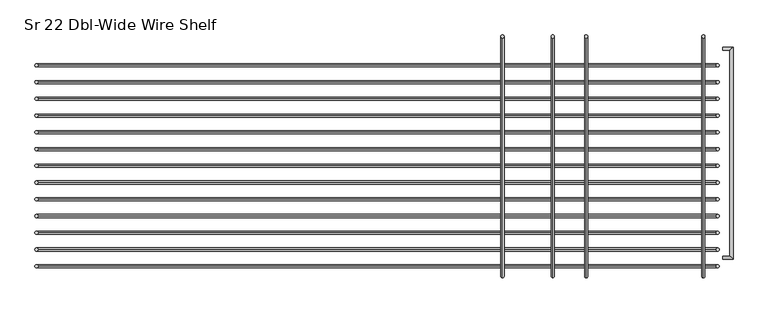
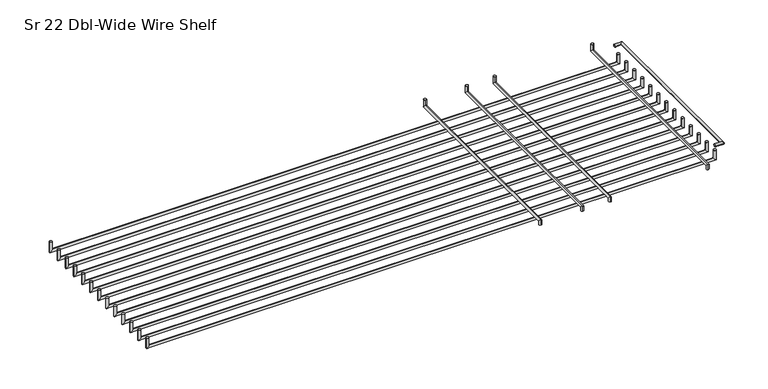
"""IFC4 building model written with IfcOpenShell, lengths in millimetres: furniture geometry, HermanMiller_Carts_CT521_CartShelf : Sr 22 Dbl-Wide Wire Shelf."""

from ifc_helpers import new_model, si_unit, frame, origin, place, context, project, spatial, circle_curve, ellipse_curve, source, transform, mapped, element, save
from ifc_brep_helpers import plane_surface, cylinder_surface, advanced_brep


def sr_22_dbl_wide_wire_shelf_2b35090b(model_context):
    return source(origin(), model_context, "Body", "AdvancedBrep", [
        advanced_brep(
        [(743.3373883, -178.26736, 1861.3501), (743.3373883, -183.04256, 1861.3501), (743.3373883, 133.81736, 1861.3501), (743.3373883, 138.59256, 1861.3501), (759.2123883, -183.04256, 1861.3501), (754.4371883, -178.26736, 1861.3501), (759.2123883, 138.59256, 1861.3501), (754.4371883, 133.81736, 1861.3501)],
        [
            (0, 1, circle_curve(frame((743.3373883, -180.65496, 1861.3501), z_axis=(-1.0, 0.0, 0.0), x_axis=(0.0, -1.0, 0.0)), 2.3876)),
            (1, 0, circle_curve(frame((743.3373883, -180.65496, 1861.3501), z_axis=(-1.0, 0.0, 0.0), x_axis=(0.0, -1.0, 0.0)), 2.3876)),
            (2, 3, circle_curve(frame((743.3373883, 136.20496, 1861.3501), z_axis=(-1.0, 0.0, 0.0), x_axis=(0.0, 1.0, 0.0)), 2.3876)),
            (3, 2, circle_curve(frame((743.3373883, 136.20496, 1861.3501), z_axis=(-1.0, 0.0, 0.0), x_axis=(0.0, 1.0, 0.0)), 2.3876)),
            (1, 4),
            (4, 5, ellipse_curve(frame((756.8247883, -180.65496, 1861.3501), z_axis=(-0.7071067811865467, -0.7071067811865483, 0.0), x_axis=(-0.7071067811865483, 0.7071067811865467, 0.0)), 3.3765763, 2.3876)),
            (5, 0),
            (5, 4, ellipse_curve(frame((756.8247883, -180.65496, 1861.3501), z_axis=(-0.7071067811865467, -0.7071067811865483, 0.0), x_axis=(-0.7071067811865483, 0.7071067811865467, 0.0)), 3.3765763, 2.3876)),
            (4, 6),
            (6, 7, ellipse_curve(frame((756.8247883, 136.20496, 1861.3501), z_axis=(0.7071067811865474, -0.7071067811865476, 0.0), x_axis=(-0.7071067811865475, -0.7071067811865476, 0.0)), 3.3765763, 2.3876)),
            (7, 5),
            (7, 6, ellipse_curve(frame((756.8247883, 136.20496, 1861.3501), z_axis=(0.7071067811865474, -0.7071067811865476, 0.0), x_axis=(-0.7071067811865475, -0.7071067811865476, 0.0)), 3.3765763, 2.3876)),
            (6, 3),
            (2, 7),
        ],
        [
            plane_surface(frame((743.3373883, -180.65496, 1861.3501), z_axis=(-1.0, 0.0, 0.0), x_axis=(0.0, 0.0, 1.0))),
            plane_surface(frame((743.3373883, 136.20496, 1861.3501), z_axis=(-1.0, 0.0, 0.0), x_axis=(0.0, 0.0, 1.0))),
            cylinder_surface(frame((743.3373883, -180.65496, 1861.3501), z_axis=(-1.0, 0.0, 0.0), x_axis=(0.0, -1.0, 0.0)), 2.3876),
            cylinder_surface(frame((756.8247883, -180.65496, 1861.3501), z_axis=(0.0, -1.0, 0.0), x_axis=(1.0, 0.0, 0.0)), 2.3876),
            cylinder_surface(frame((756.8247883, 136.20496, 1861.3501), z_axis=(1.0, 0.0, 0.0), x_axis=(0.0, 1.0, 0.0)), 2.3876),
        ],
        [
            (0, [[1, 2]]),
            (1, [[3, 4]]),
            (2, [[5, 6, 7, -2]]),
            (2, [[-7, 8, -5, -1]]),
            (3, [[9, 10, 11, -6]]),
            (3, [[-11, 12, -9, -8]]),
            (4, [[13, -3, 14, -10]]),
            (4, [[-14, -4, -13, -12]]),
        ],
    ),
        advanced_brep(
        [(733.4732983, 34.925, 1863.7377), (738.2357983, 34.925, 1863.7377), (733.4732983, 34.925, 1848.4596), (738.2357983, 34.925, 1843.6971), (-295.1886017, 34.925, 1848.4596), (-299.9511017, 34.925, 1843.6971), (-295.1886017, 34.925, 1863.7377), (-299.9511017, 34.925, 1863.7377)],
        [
            (0, 1, circle_curve(frame((735.8545483, 34.925, 1863.7377), z_axis=(0.0, 0.0, 1.0), x_axis=(1.0, 0.0, 0.0)), 2.38125)),
            (1, 0, circle_curve(frame((735.8545483, 34.925, 1863.7377), z_axis=(0.0, 0.0, 1.0), x_axis=(1.0, 0.0, 0.0)), 2.38125)),
            (0, 2),
            (2, 3, ellipse_curve(frame((735.8545483, 34.925, 1846.07835), z_axis=(0.7071067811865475, 0.0, 0.7071067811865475), x_axis=(-0.7071067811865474, 0.0, 0.7071067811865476)), 3.367596, 2.38125)),
            (3, 1),
            (3, 2, ellipse_curve(frame((735.8545483, 34.925, 1846.07835), z_axis=(0.7071067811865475, 0.0, 0.7071067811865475), x_axis=(-0.7071067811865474, 0.0, 0.7071067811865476)), 3.367596, 2.38125)),
            (2, 4),
            (4, 5, ellipse_curve(frame((-297.5698517, 34.925, 1846.07835), z_axis=(0.7071067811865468, 0.0, -0.7071067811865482), x_axis=(0.7071067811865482, 0.0, 0.7071067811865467)), 3.367596, 2.38125)),
            (5, 3),
            (5, 4, ellipse_curve(frame((-297.5698517, 34.925, 1846.07835), z_axis=(0.7071067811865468, 0.0, -0.7071067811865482), x_axis=(0.7071067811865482, 0.0, 0.7071067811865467)), 3.367596, 2.38125)),
            (6, 7, circle_curve(frame((-297.5698517, 34.925, 1863.7377), z_axis=(0.0, 0.0, 1.0), x_axis=(-1.0, 0.0, 0.0)), 2.38125)),
            (7, 6, circle_curve(frame((-297.5698517, 34.925, 1863.7377), z_axis=(0.0, 0.0, 1.0), x_axis=(-1.0, 0.0, 0.0)), 2.38125)),
            (4, 6),
            (7, 5),
        ],
        [
            plane_surface(frame((735.8545483, 34.925, 1863.7377), z_axis=(0.0, 0.0, 1.0), x_axis=(0.0, -1.0, 0.0))),
            cylinder_surface(frame((735.8545483, 34.925, 1863.7377), z_axis=(0.0, 0.0, 1.0), x_axis=(1.0, 0.0, 0.0)), 2.38125),
            cylinder_surface(frame((735.8545483, 34.925, 1846.07835), z_axis=(1.0, 0.0, 0.0), x_axis=(0.0, 0.0, -1.0)), 2.38125),
            plane_surface(frame((-297.5698517, 34.925, 1863.7377), z_axis=(0.0, 0.0, 1.0), x_axis=(0.0, -1.0, 0.0))),
            cylinder_surface(frame((-297.5698517, 34.925, 1846.07835), z_axis=(0.0, 0.0, -1.0), x_axis=(-1.0, 0.0, 0.0)), 2.38125),
        ],
        [
            (0, [[1, 2]]),
            (1, [[-1, 3, 4, 5]]),
            (1, [[-2, -5, 6, -3]]),
            (2, [[-4, 7, 8, 9]]),
            (2, [[-6, -9, 10, -7]]),
            (3, [[11, 12]]),
            (4, [[-8, 13, -12, 14]]),
            (4, [[-10, -14, -11, -13]]),
        ],
    ),
        advanced_brep(
        [(733.4732983, -15.875, 1863.7377), (738.2357983, -15.875, 1863.7377), (733.4732983, -15.875, 1848.4596), (738.2357983, -15.875, 1843.6971), (-295.1886017, -15.875, 1848.4596), (-299.9511017, -15.875, 1843.6971), (-295.1886017, -15.875, 1863.7377), (-299.9511017, -15.875, 1863.7377)],
        [
            (0, 1, circle_curve(frame((735.8545483, -15.875, 1863.7377), z_axis=(0.0, 0.0, 1.0), x_axis=(1.0, 0.0, 0.0)), 2.38125)),
            (1, 0, circle_curve(frame((735.8545483, -15.875, 1863.7377), z_axis=(0.0, 0.0, 1.0), x_axis=(1.0, 0.0, 0.0)), 2.38125)),
            (0, 2),
            (2, 3, ellipse_curve(frame((735.8545483, -15.875, 1846.07835), z_axis=(0.7071067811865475, 0.0, 0.7071067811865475), x_axis=(-0.7071067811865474, 0.0, 0.7071067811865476)), 3.367596, 2.38125)),
            (3, 1),
            (3, 2, ellipse_curve(frame((735.8545483, -15.875, 1846.07835), z_axis=(0.7071067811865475, 0.0, 0.7071067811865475), x_axis=(-0.7071067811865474, 0.0, 0.7071067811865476)), 3.367596, 2.38125)),
            (2, 4),
            (4, 5, ellipse_curve(frame((-297.5698517, -15.875, 1846.07835), z_axis=(0.7071067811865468, 0.0, -0.7071067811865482), x_axis=(0.7071067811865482, 0.0, 0.7071067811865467)), 3.367596, 2.38125)),
            (5, 3),
            (5, 4, ellipse_curve(frame((-297.5698517, -15.875, 1846.07835), z_axis=(0.7071067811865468, 0.0, -0.7071067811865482), x_axis=(0.7071067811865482, 0.0, 0.7071067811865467)), 3.367596, 2.38125)),
            (6, 7, circle_curve(frame((-297.5698517, -15.875, 1863.7377), z_axis=(0.0, 0.0, 1.0), x_axis=(-1.0, 0.0, 0.0)), 2.38125)),
            (7, 6, circle_curve(frame((-297.5698517, -15.875, 1863.7377), z_axis=(0.0, 0.0, 1.0), x_axis=(-1.0, 0.0, 0.0)), 2.38125)),
            (4, 6),
            (7, 5),
        ],
        [
            plane_surface(frame((735.8545483, -15.875, 1863.7377), z_axis=(0.0, 0.0, 1.0), x_axis=(0.0, -1.0, 0.0))),
            cylinder_surface(frame((735.8545483, -15.875, 1863.7377), z_axis=(0.0, 0.0, 1.0), x_axis=(1.0, 0.0, 0.0)), 2.38125),
            cylinder_surface(frame((735.8545483, -15.875, 1846.07835), z_axis=(1.0, 0.0, 0.0), x_axis=(0.0, 0.0, -1.0)), 2.38125),
            plane_surface(frame((-297.5698517, -15.875, 1863.7377), z_axis=(0.0, 0.0, 1.0), x_axis=(0.0, -1.0, 0.0))),
            cylinder_surface(frame((-297.5698517, -15.875, 1846.07835), z_axis=(0.0, 0.0, -1.0), x_axis=(-1.0, 0.0, 0.0)), 2.38125),
        ],
        [
            (0, [[1, 2]]),
            (1, [[-1, 3, 4, 5]]),
            (1, [[-2, -5, 6, -3]]),
            (2, [[-4, 7, 8, 9]]),
            (2, [[-6, -9, 10, -7]]),
            (3, [[11, 12]]),
            (4, [[-8, 13, -12, 14]]),
            (4, [[-10, -14, -11, -13]]),
        ],
    ),
        advanced_brep(
        [(733.4732983, -66.675, 1863.7377), (738.2357983, -66.675, 1863.7377), (733.4732983, -66.675, 1848.4596), (738.2357983, -66.675, 1843.6971), (-295.1886017, -66.675, 1848.4596), (-299.9511017, -66.675, 1843.6971), (-295.1886017, -66.675, 1863.7377), (-299.9511017, -66.675, 1863.7377)],
        [
            (0, 1, circle_curve(frame((735.8545483, -66.675, 1863.7377), z_axis=(0.0, 0.0, 1.0), x_axis=(1.0, 0.0, 0.0)), 2.38125)),
            (1, 0, circle_curve(frame((735.8545483, -66.675, 1863.7377), z_axis=(0.0, 0.0, 1.0), x_axis=(1.0, 0.0, 0.0)), 2.38125)),
            (0, 2),
            (2, 3, ellipse_curve(frame((735.8545483, -66.675, 1846.07835), z_axis=(0.7071067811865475, 0.0, 0.7071067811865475), x_axis=(-0.7071067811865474, 0.0, 0.7071067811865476)), 3.367596, 2.38125)),
            (3, 1),
            (3, 2, ellipse_curve(frame((735.8545483, -66.675, 1846.07835), z_axis=(0.7071067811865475, 0.0, 0.7071067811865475), x_axis=(-0.7071067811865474, 0.0, 0.7071067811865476)), 3.367596, 2.38125)),
            (2, 4),
            (4, 5, ellipse_curve(frame((-297.5698517, -66.675, 1846.07835), z_axis=(0.7071067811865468, 0.0, -0.7071067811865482), x_axis=(0.7071067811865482, 0.0, 0.7071067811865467)), 3.367596, 2.38125)),
            (5, 3),
            (5, 4, ellipse_curve(frame((-297.5698517, -66.675, 1846.07835), z_axis=(0.7071067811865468, 0.0, -0.7071067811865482), x_axis=(0.7071067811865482, 0.0, 0.7071067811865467)), 3.367596, 2.38125)),
            (6, 7, circle_curve(frame((-297.5698517, -66.675, 1863.7377), z_axis=(0.0, 0.0, 1.0), x_axis=(-1.0, 0.0, 0.0)), 2.38125)),
            (7, 6, circle_curve(frame((-297.5698517, -66.675, 1863.7377), z_axis=(0.0, 0.0, 1.0), x_axis=(-1.0, 0.0, 0.0)), 2.38125)),
            (4, 6),
            (7, 5),
        ],
        [
            plane_surface(frame((735.8545483, -66.675, 1863.7377), z_axis=(0.0, 0.0, 1.0), x_axis=(0.0, -1.0, 0.0))),
            cylinder_surface(frame((735.8545483, -66.675, 1863.7377), z_axis=(0.0, 0.0, 1.0), x_axis=(1.0, 0.0, 0.0)), 2.38125),
            cylinder_surface(frame((735.8545483, -66.675, 1846.07835), z_axis=(1.0, 0.0, 0.0), x_axis=(0.0, 0.0, -1.0)), 2.38125),
            plane_surface(frame((-297.5698517, -66.675, 1863.7377), z_axis=(0.0, 0.0, 1.0), x_axis=(0.0, -1.0, 0.0))),
            cylinder_surface(frame((-297.5698517, -66.675, 1846.07835), z_axis=(0.0, 0.0, -1.0), x_axis=(-1.0, 0.0, 0.0)), 2.38125),
        ],
        [
            (0, [[1, 2]]),
            (1, [[-1, 3, 4, 5]]),
            (1, [[-2, -5, 6, -3]]),
            (2, [[-4, 7, 8, 9]]),
            (2, [[-6, -9, 10, -7]]),
            (3, [[11, 12]]),
            (4, [[-8, 13, -12, 14]]),
            (4, [[-10, -14, -11, -13]]),
        ],
    ),
        advanced_brep(
        [(733.4732983, -117.475, 1863.7377), (738.2357983, -117.475, 1863.7377), (733.4732983, -117.475, 1848.4596), (738.2357983, -117.475, 1843.6971), (-295.1886017, -117.475, 1848.4596), (-299.9511017, -117.475, 1843.6971), (-295.1886017, -117.475, 1863.7377), (-299.9511017, -117.475, 1863.7377)],
        [
            (0, 1, circle_curve(frame((735.8545483, -117.475, 1863.7377), z_axis=(0.0, 0.0, 1.0), x_axis=(1.0, 0.0, 0.0)), 2.38125)),
            (1, 0, circle_curve(frame((735.8545483, -117.475, 1863.7377), z_axis=(0.0, 0.0, 1.0), x_axis=(1.0, 0.0, 0.0)), 2.38125)),
            (0, 2),
            (2, 3, ellipse_curve(frame((735.8545483, -117.475, 1846.07835), z_axis=(0.7071067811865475, 0.0, 0.7071067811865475), x_axis=(-0.7071067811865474, 0.0, 0.7071067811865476)), 3.367596, 2.38125)),
            (3, 1),
            (3, 2, ellipse_curve(frame((735.8545483, -117.475, 1846.07835), z_axis=(0.7071067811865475, 0.0, 0.7071067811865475), x_axis=(-0.7071067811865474, 0.0, 0.7071067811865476)), 3.367596, 2.38125)),
            (2, 4),
            (4, 5, ellipse_curve(frame((-297.5698517, -117.475, 1846.07835), z_axis=(0.7071067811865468, 0.0, -0.7071067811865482), x_axis=(0.7071067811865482, 0.0, 0.7071067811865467)), 3.367596, 2.38125)),
            (5, 3),
            (5, 4, ellipse_curve(frame((-297.5698517, -117.475, 1846.07835), z_axis=(0.7071067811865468, 0.0, -0.7071067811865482), x_axis=(0.7071067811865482, 0.0, 0.7071067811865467)), 3.367596, 2.38125)),
            (6, 7, circle_curve(frame((-297.5698517, -117.475, 1863.7377), z_axis=(0.0, 0.0, 1.0), x_axis=(-1.0, 0.0, 0.0)), 2.38125)),
            (7, 6, circle_curve(frame((-297.5698517, -117.475, 1863.7377), z_axis=(0.0, 0.0, 1.0), x_axis=(-1.0, 0.0, 0.0)), 2.38125)),
            (4, 6),
            (7, 5),
        ],
        [
            plane_surface(frame((735.8545483, -117.475, 1863.7377), z_axis=(0.0, 0.0, 1.0), x_axis=(0.0, -1.0, 0.0))),
            cylinder_surface(frame((735.8545483, -117.475, 1863.7377), z_axis=(0.0, 0.0, 1.0), x_axis=(1.0, 0.0, 0.0)), 2.38125),
            cylinder_surface(frame((735.8545483, -117.475, 1846.07835), z_axis=(1.0, 0.0, 0.0), x_axis=(0.0, 0.0, -1.0)), 2.38125),
            plane_surface(frame((-297.5698517, -117.475, 1863.7377), z_axis=(0.0, 0.0, 1.0), x_axis=(0.0, -1.0, 0.0))),
            cylinder_surface(frame((-297.5698517, -117.475, 1846.07835), z_axis=(0.0, 0.0, -1.0), x_axis=(-1.0, 0.0, 0.0)), 2.38125),
        ],
        [
            (0, [[1, 2]]),
            (1, [[-1, 3, 4, 5]]),
            (1, [[-2, -5, 6, -3]]),
            (2, [[-4, 7, 8, 9]]),
            (2, [[-6, -9, 10, -7]]),
            (3, [[11, 12]]),
            (4, [[-8, 13, -12, 14]]),
            (4, [[-10, -14, -11, -13]]),
        ],
    ),
        advanced_brep(
        [(733.4732983, -168.275, 1863.7377), (738.2357983, -168.275, 1863.7377), (733.4732983, -168.275, 1848.4596), (738.2357983, -168.275, 1843.6971), (-295.1886017, -168.275, 1848.4596), (-299.9511017, -168.275, 1843.6971), (-295.1886017, -168.275, 1863.7377), (-299.9511017, -168.275, 1863.7377)],
        [
            (0, 1, circle_curve(frame((735.8545483, -168.275, 1863.7377), z_axis=(0.0, 0.0, 1.0), x_axis=(1.0, 0.0, 0.0)), 2.38125)),
            (1, 0, circle_curve(frame((735.8545483, -168.275, 1863.7377), z_axis=(0.0, 0.0, 1.0), x_axis=(1.0, 0.0, 0.0)), 2.38125)),
            (0, 2),
            (2, 3, ellipse_curve(frame((735.8545483, -168.275, 1846.07835), z_axis=(0.7071067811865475, 0.0, 0.7071067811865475), x_axis=(-0.7071067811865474, 0.0, 0.7071067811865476)), 3.367596, 2.38125)),
            (3, 1),
            (3, 2, ellipse_curve(frame((735.8545483, -168.275, 1846.07835), z_axis=(0.7071067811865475, 0.0, 0.7071067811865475), x_axis=(-0.7071067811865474, 0.0, 0.7071067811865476)), 3.367596, 2.38125)),
            (2, 4),
            (4, 5, ellipse_curve(frame((-297.5698517, -168.275, 1846.07835), z_axis=(0.7071067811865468, 0.0, -0.7071067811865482), x_axis=(0.7071067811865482, 0.0, 0.7071067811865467)), 3.367596, 2.38125)),
            (5, 3),
            (5, 4, ellipse_curve(frame((-297.5698517, -168.275, 1846.07835), z_axis=(0.7071067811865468, 0.0, -0.7071067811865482), x_axis=(0.7071067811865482, 0.0, 0.7071067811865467)), 3.367596, 2.38125)),
            (6, 7, circle_curve(frame((-297.5698517, -168.275, 1863.7377), z_axis=(0.0, 0.0, 1.0), x_axis=(-1.0, 0.0, 0.0)), 2.38125)),
            (7, 6, circle_curve(frame((-297.5698517, -168.275, 1863.7377), z_axis=(0.0, 0.0, 1.0), x_axis=(-1.0, 0.0, 0.0)), 2.38125)),
            (4, 6),
            (7, 5),
        ],
        [
            plane_surface(frame((735.8545483, -168.275, 1863.7377), z_axis=(0.0, 0.0, 1.0), x_axis=(0.0, -1.0, 0.0))),
            cylinder_surface(frame((735.8545483, -168.275, 1863.7377), z_axis=(0.0, 0.0, 1.0), x_axis=(1.0, 0.0, 0.0)), 2.38125),
            cylinder_surface(frame((735.8545483, -168.275, 1846.07835), z_axis=(1.0, 0.0, 0.0), x_axis=(0.0, 0.0, -1.0)), 2.38125),
            plane_surface(frame((-297.5698517, -168.275, 1863.7377), z_axis=(0.0, 0.0, 1.0), x_axis=(0.0, -1.0, 0.0))),
            cylinder_surface(frame((-297.5698517, -168.275, 1846.07835), z_axis=(0.0, 0.0, -1.0), x_axis=(-1.0, 0.0, 0.0)), 2.38125),
        ],
        [
            (0, [[1, 2]]),
            (1, [[-1, 3, 4, 5]]),
            (1, [[-2, -5, 6, -3]]),
            (2, [[-4, 7, 8, 9]]),
            (2, [[-6, -9, 10, -7]]),
            (3, [[11, 12]]),
            (4, [[-8, 13, -12, 14]]),
            (4, [[-10, -14, -11, -13]]),
        ],
    ),
        advanced_brep(
        [(733.4732983, -193.675, 1863.7377), (738.2357983, -193.675, 1863.7377), (733.4732983, -193.675, 1848.4596), (738.2357983, -193.675, 1843.6971), (-295.1886017, -193.675, 1848.4596), (-299.9511017, -193.675, 1843.6971), (-295.1886017, -193.675, 1863.7377), (-299.9511017, -193.675, 1863.7377)],
        [
            (0, 1, circle_curve(frame((735.8545483, -193.675, 1863.7377), z_axis=(0.0, 0.0, 1.0), x_axis=(1.0, 0.0, 0.0)), 2.38125)),
            (1, 0, circle_curve(frame((735.8545483, -193.675, 1863.7377), z_axis=(0.0, 0.0, 1.0), x_axis=(1.0, 0.0, 0.0)), 2.38125)),
            (0, 2),
            (2, 3, ellipse_curve(frame((735.8545483, -193.675, 1846.07835), z_axis=(0.7071067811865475, 0.0, 0.7071067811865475), x_axis=(-0.7071067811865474, 0.0, 0.7071067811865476)), 3.367596, 2.38125)),
            (3, 1),
            (3, 2, ellipse_curve(frame((735.8545483, -193.675, 1846.07835), z_axis=(0.7071067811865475, 0.0, 0.7071067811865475), x_axis=(-0.7071067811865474, 0.0, 0.7071067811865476)), 3.367596, 2.38125)),
            (2, 4),
            (4, 5, ellipse_curve(frame((-297.5698517, -193.675, 1846.07835), z_axis=(0.7071067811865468, 0.0, -0.7071067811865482), x_axis=(0.7071067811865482, 0.0, 0.7071067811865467)), 3.367596, 2.38125)),
            (5, 3),
            (5, 4, ellipse_curve(frame((-297.5698517, -193.675, 1846.07835), z_axis=(0.7071067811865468, 0.0, -0.7071067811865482), x_axis=(0.7071067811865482, 0.0, 0.7071067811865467)), 3.367596, 2.38125)),
            (6, 7, circle_curve(frame((-297.5698517, -193.675, 1863.7377), z_axis=(0.0, 0.0, 1.0), x_axis=(-1.0, 0.0, 0.0)), 2.38125)),
            (7, 6, circle_curve(frame((-297.5698517, -193.675, 1863.7377), z_axis=(0.0, 0.0, 1.0), x_axis=(-1.0, 0.0, 0.0)), 2.38125)),
            (4, 6),
            (7, 5),
        ],
        [
            plane_surface(frame((735.8545483, -193.675, 1863.7377), z_axis=(0.0, 0.0, 1.0), x_axis=(0.0, -1.0, 0.0))),
            cylinder_surface(frame((735.8545483, -193.675, 1863.7377), z_axis=(0.0, 0.0, 1.0), x_axis=(1.0, 0.0, 0.0)), 2.38125),
            cylinder_surface(frame((735.8545483, -193.675, 1846.07835), z_axis=(1.0, 0.0, 0.0), x_axis=(0.0, 0.0, -1.0)), 2.38125),
            plane_surface(frame((-297.5698517, -193.675, 1863.7377), z_axis=(0.0, 0.0, 1.0), x_axis=(0.0, -1.0, 0.0))),
            cylinder_surface(frame((-297.5698517, -193.675, 1846.07835), z_axis=(0.0, 0.0, -1.0), x_axis=(-1.0, 0.0, 0.0)), 2.38125),
        ],
        [
            (0, [[1, 2]]),
            (1, [[-1, 3, 4, 5]]),
            (1, [[-2, -5, 6, -3]]),
            (2, [[-4, 7, 8, 9]]),
            (2, [[-6, -9, 10, -7]]),
            (3, [[11, 12]]),
            (4, [[-8, 13, -12, 14]]),
            (4, [[-10, -14, -11, -13]]),
        ],
    ),
        advanced_brep(
        [(733.4732983, -142.875, 1863.7377), (738.2357983, -142.875, 1863.7377), (733.4732983, -142.875, 1848.4596), (738.2357983, -142.875, 1843.6971), (-295.1886017, -142.875, 1848.4596), (-299.9511017, -142.875, 1843.6971), (-295.1886017, -142.875, 1863.7377), (-299.9511017, -142.875, 1863.7377)],
        [
            (0, 1, circle_curve(frame((735.8545483, -142.875, 1863.7377), z_axis=(0.0, 0.0, 1.0), x_axis=(1.0, 0.0, 0.0)), 2.38125)),
            (1, 0, circle_curve(frame((735.8545483, -142.875, 1863.7377), z_axis=(0.0, 0.0, 1.0), x_axis=(1.0, 0.0, 0.0)), 2.38125)),
            (0, 2),
            (2, 3, ellipse_curve(frame((735.8545483, -142.875, 1846.07835), z_axis=(0.7071067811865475, 0.0, 0.7071067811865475), x_axis=(-0.7071067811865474, 0.0, 0.7071067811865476)), 3.367596, 2.38125)),
            (3, 1),
            (3, 2, ellipse_curve(frame((735.8545483, -142.875, 1846.07835), z_axis=(0.7071067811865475, 0.0, 0.7071067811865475), x_axis=(-0.7071067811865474, 0.0, 0.7071067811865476)), 3.367596, 2.38125)),
            (2, 4),
            (4, 5, ellipse_curve(frame((-297.5698517, -142.875, 1846.07835), z_axis=(0.7071067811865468, 0.0, -0.7071067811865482), x_axis=(0.7071067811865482, 0.0, 0.7071067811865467)), 3.367596, 2.38125)),
            (5, 3),
            (5, 4, ellipse_curve(frame((-297.5698517, -142.875, 1846.07835), z_axis=(0.7071067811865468, 0.0, -0.7071067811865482), x_axis=(0.7071067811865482, 0.0, 0.7071067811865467)), 3.367596, 2.38125)),
            (6, 7, circle_curve(frame((-297.5698517, -142.875, 1863.7377), z_axis=(0.0, 0.0, 1.0), x_axis=(-1.0, 0.0, 0.0)), 2.38125)),
            (7, 6, circle_curve(frame((-297.5698517, -142.875, 1863.7377), z_axis=(0.0, 0.0, 1.0), x_axis=(-1.0, 0.0, 0.0)), 2.38125)),
            (4, 6),
            (7, 5),
        ],
        [
            plane_surface(frame((735.8545483, -142.875, 1863.7377), z_axis=(0.0, 0.0, 1.0), x_axis=(0.0, -1.0, 0.0))),
            cylinder_surface(frame((735.8545483, -142.875, 1863.7377), z_axis=(0.0, 0.0, 1.0), x_axis=(1.0, 0.0, 0.0)), 2.38125),
            cylinder_surface(frame((735.8545483, -142.875, 1846.07835), z_axis=(1.0, 0.0, 0.0), x_axis=(0.0, 0.0, -1.0)), 2.38125),
            plane_surface(frame((-297.5698517, -142.875, 1863.7377), z_axis=(0.0, 0.0, 1.0), x_axis=(0.0, -1.0, 0.0))),
            cylinder_surface(frame((-297.5698517, -142.875, 1846.07835), z_axis=(0.0, 0.0, -1.0), x_axis=(-1.0, 0.0, 0.0)), 2.38125),
        ],
        [
            (0, [[1, 2]]),
            (1, [[-1, 3, 4, 5]]),
            (1, [[-2, -5, 6, -3]]),
            (2, [[-4, 7, 8, 9]]),
            (2, [[-6, -9, 10, -7]]),
            (3, [[11, 12]]),
            (4, [[-8, 13, -12, 14]]),
            (4, [[-10, -14, -11, -13]]),
        ],
    ),
        advanced_brep(
        [(733.4732983, -92.075, 1863.7377), (738.2357983, -92.075, 1863.7377), (733.4732983, -92.075, 1848.4596), (738.2357983, -92.075, 1843.6971), (-295.1886017, -92.075, 1848.4596), (-299.9511017, -92.075, 1843.6971), (-295.1886017, -92.075, 1863.7377), (-299.9511017, -92.075, 1863.7377)],
        [
            (0, 1, circle_curve(frame((735.8545483, -92.075, 1863.7377), z_axis=(0.0, 0.0, 1.0), x_axis=(1.0, 0.0, 0.0)), 2.38125)),
            (1, 0, circle_curve(frame((735.8545483, -92.075, 1863.7377), z_axis=(0.0, 0.0, 1.0), x_axis=(1.0, 0.0, 0.0)), 2.38125)),
            (0, 2),
            (2, 3, ellipse_curve(frame((735.8545483, -92.075, 1846.07835), z_axis=(0.7071067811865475, 0.0, 0.7071067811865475), x_axis=(-0.7071067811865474, 0.0, 0.7071067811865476)), 3.367596, 2.38125)),
            (3, 1),
            (3, 2, ellipse_curve(frame((735.8545483, -92.075, 1846.07835), z_axis=(0.7071067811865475, 0.0, 0.7071067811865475), x_axis=(-0.7071067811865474, 0.0, 0.7071067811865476)), 3.367596, 2.38125)),
            (2, 4),
            (4, 5, ellipse_curve(frame((-297.5698517, -92.075, 1846.07835), z_axis=(0.7071067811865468, 0.0, -0.7071067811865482), x_axis=(0.7071067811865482, 0.0, 0.7071067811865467)), 3.367596, 2.38125)),
            (5, 3),
            (5, 4, ellipse_curve(frame((-297.5698517, -92.075, 1846.07835), z_axis=(0.7071067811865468, 0.0, -0.7071067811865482), x_axis=(0.7071067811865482, 0.0, 0.7071067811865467)), 3.367596, 2.38125)),
            (6, 7, circle_curve(frame((-297.5698517, -92.075, 1863.7377), z_axis=(0.0, 0.0, 1.0), x_axis=(-1.0, 0.0, 0.0)), 2.38125)),
            (7, 6, circle_curve(frame((-297.5698517, -92.075, 1863.7377), z_axis=(0.0, 0.0, 1.0), x_axis=(-1.0, 0.0, 0.0)), 2.38125)),
            (4, 6),
            (7, 5),
        ],
        [
            plane_surface(frame((735.8545483, -92.075, 1863.7377), z_axis=(0.0, 0.0, 1.0), x_axis=(0.0, -1.0, 0.0))),
            cylinder_surface(frame((735.8545483, -92.075, 1863.7377), z_axis=(0.0, 0.0, 1.0), x_axis=(1.0, 0.0, 0.0)), 2.38125),
            cylinder_surface(frame((735.8545483, -92.075, 1846.07835), z_axis=(1.0, 0.0, 0.0), x_axis=(0.0, 0.0, -1.0)), 2.38125),
            plane_surface(frame((-297.5698517, -92.075, 1863.7377), z_axis=(0.0, 0.0, 1.0), x_axis=(0.0, -1.0, 0.0))),
            cylinder_surface(frame((-297.5698517, -92.075, 1846.07835), z_axis=(0.0, 0.0, -1.0), x_axis=(-1.0, 0.0, 0.0)), 2.38125),
        ],
        [
            (0, [[1, 2]]),
            (1, [[-1, 3, 4, 5]]),
            (1, [[-2, -5, 6, -3]]),
            (2, [[-4, 7, 8, 9]]),
            (2, [[-6, -9, 10, -7]]),
            (3, [[11, 12]]),
            (4, [[-8, 13, -12, 14]]),
            (4, [[-10, -14, -11, -13]]),
        ],
    ),
        advanced_brep(
        [(733.4732983, -41.275, 1863.7377), (738.2357983, -41.275, 1863.7377), (733.4732983, -41.275, 1848.4596), (738.2357983, -41.275, 1843.6971), (-295.1886017, -41.275, 1848.4596), (-299.9511017, -41.275, 1843.6971), (-295.1886017, -41.275, 1863.7377), (-299.9511017, -41.275, 1863.7377)],
        [
            (0, 1, circle_curve(frame((735.8545483, -41.275, 1863.7377), z_axis=(0.0, 0.0, 1.0), x_axis=(1.0, 0.0, 0.0)), 2.38125)),
            (1, 0, circle_curve(frame((735.8545483, -41.275, 1863.7377), z_axis=(0.0, 0.0, 1.0), x_axis=(1.0, 0.0, 0.0)), 2.38125)),
            (0, 2),
            (2, 3, ellipse_curve(frame((735.8545483, -41.275, 1846.07835), z_axis=(0.7071067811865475, 0.0, 0.7071067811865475), x_axis=(-0.7071067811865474, 0.0, 0.7071067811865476)), 3.367596, 2.38125)),
            (3, 1),
            (3, 2, ellipse_curve(frame((735.8545483, -41.275, 1846.07835), z_axis=(0.7071067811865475, 0.0, 0.7071067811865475), x_axis=(-0.7071067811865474, 0.0, 0.7071067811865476)), 3.367596, 2.38125)),
            (2, 4),
            (4, 5, ellipse_curve(frame((-297.5698517, -41.275, 1846.07835), z_axis=(0.7071067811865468, 0.0, -0.7071067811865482), x_axis=(0.7071067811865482, 0.0, 0.7071067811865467)), 3.367596, 2.38125)),
            (5, 3),
            (5, 4, ellipse_curve(frame((-297.5698517, -41.275, 1846.07835), z_axis=(0.7071067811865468, 0.0, -0.7071067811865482), x_axis=(0.7071067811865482, 0.0, 0.7071067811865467)), 3.367596, 2.38125)),
            (6, 7, circle_curve(frame((-297.5698517, -41.275, 1863.7377), z_axis=(0.0, 0.0, 1.0), x_axis=(-1.0, 0.0, 0.0)), 2.38125)),
            (7, 6, circle_curve(frame((-297.5698517, -41.275, 1863.7377), z_axis=(0.0, 0.0, 1.0), x_axis=(-1.0, 0.0, 0.0)), 2.38125)),
            (4, 6),
            (7, 5),
        ],
        [
            plane_surface(frame((735.8545483, -41.275, 1863.7377), z_axis=(0.0, 0.0, 1.0), x_axis=(0.0, -1.0, 0.0))),
            cylinder_surface(frame((735.8545483, -41.275, 1863.7377), z_axis=(0.0, 0.0, 1.0), x_axis=(1.0, 0.0, 0.0)), 2.38125),
            cylinder_surface(frame((735.8545483, -41.275, 1846.07835), z_axis=(1.0, 0.0, 0.0), x_axis=(0.0, 0.0, -1.0)), 2.38125),
            plane_surface(frame((-297.5698517, -41.275, 1863.7377), z_axis=(0.0, 0.0, 1.0), x_axis=(0.0, -1.0, 0.0))),
            cylinder_surface(frame((-297.5698517, -41.275, 1846.07835), z_axis=(0.0, 0.0, -1.0), x_axis=(-1.0, 0.0, 0.0)), 2.38125),
        ],
        [
            (0, [[1, 2]]),
            (1, [[-1, 3, 4, 5]]),
            (1, [[-2, -5, 6, -3]]),
            (2, [[-4, 7, 8, 9]]),
            (2, [[-6, -9, 10, -7]]),
            (3, [[11, 12]]),
            (4, [[-8, 13, -12, 14]]),
            (4, [[-10, -14, -11, -13]]),
        ],
    ),
        advanced_brep(
        [(733.4732983, 9.525, 1863.7377), (738.2357983, 9.525, 1863.7377), (733.4732983, 9.525, 1848.4596), (738.2357983, 9.525, 1843.6971), (-295.1886017, 9.525, 1848.4596), (-299.9511017, 9.525, 1843.6971), (-295.1886017, 9.525, 1863.7377), (-299.9511017, 9.525, 1863.7377)],
        [
            (0, 1, circle_curve(frame((735.8545483, 9.525, 1863.7377), z_axis=(0.0, 0.0, 1.0), x_axis=(1.0, 0.0, 0.0)), 2.38125)),
            (1, 0, circle_curve(frame((735.8545483, 9.525, 1863.7377), z_axis=(0.0, 0.0, 1.0), x_axis=(1.0, 0.0, 0.0)), 2.38125)),
            (0, 2),
            (2, 3, ellipse_curve(frame((735.8545483, 9.525, 1846.07835), z_axis=(0.7071067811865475, 0.0, 0.7071067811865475), x_axis=(-0.7071067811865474, 0.0, 0.7071067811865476)), 3.367596, 2.38125)),
            (3, 1),
            (3, 2, ellipse_curve(frame((735.8545483, 9.525, 1846.07835), z_axis=(0.7071067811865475, 0.0, 0.7071067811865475), x_axis=(-0.7071067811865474, 0.0, 0.7071067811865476)), 3.367596, 2.38125)),
            (2, 4),
            (4, 5, ellipse_curve(frame((-297.5698517, 9.525, 1846.07835), z_axis=(0.7071067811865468, 0.0, -0.7071067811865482), x_axis=(0.7071067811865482, 0.0, 0.7071067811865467)), 3.367596, 2.38125)),
            (5, 3),
            (5, 4, ellipse_curve(frame((-297.5698517, 9.525, 1846.07835), z_axis=(0.7071067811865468, 0.0, -0.7071067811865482), x_axis=(0.7071067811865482, 0.0, 0.7071067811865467)), 3.367596, 2.38125)),
            (6, 7, circle_curve(frame((-297.5698517, 9.525, 1863.7377), z_axis=(0.0, 0.0, 1.0), x_axis=(-1.0, 0.0, 0.0)), 2.38125)),
            (7, 6, circle_curve(frame((-297.5698517, 9.525, 1863.7377), z_axis=(0.0, 0.0, 1.0), x_axis=(-1.0, 0.0, 0.0)), 2.38125)),
            (4, 6),
            (7, 5),
        ],
        [
            plane_surface(frame((735.8545483, 9.525, 1863.7377), z_axis=(0.0, 0.0, 1.0), x_axis=(0.0, -1.0, 0.0))),
            cylinder_surface(frame((735.8545483, 9.525, 1863.7377), z_axis=(0.0, 0.0, 1.0), x_axis=(1.0, 0.0, 0.0)), 2.38125),
            cylinder_surface(frame((735.8545483, 9.525, 1846.07835), z_axis=(1.0, 0.0, 0.0), x_axis=(0.0, 0.0, -1.0)), 2.38125),
            plane_surface(frame((-297.5698517, 9.525, 1863.7377), z_axis=(0.0, 0.0, 1.0), x_axis=(0.0, -1.0, 0.0))),
            cylinder_surface(frame((-297.5698517, 9.525, 1846.07835), z_axis=(0.0, 0.0, -1.0), x_axis=(-1.0, 0.0, 0.0)), 2.38125),
        ],
        [
            (0, [[1, 2]]),
            (1, [[-1, 3, 4, 5]]),
            (1, [[-2, -5, 6, -3]]),
            (2, [[-4, 7, 8, 9]]),
            (2, [[-6, -9, 10, -7]]),
            (3, [[11, 12]]),
            (4, [[-8, 13, -12, 14]]),
            (4, [[-10, -14, -11, -13]]),
        ],
    ),
        advanced_brep(
        [(733.4732983, 60.325, 1863.7377), (738.2357983, 60.325, 1863.7377), (733.4732983, 60.325, 1848.4596), (738.2357983, 60.325, 1843.6971), (-295.1886017, 60.325, 1848.4596), (-299.9511017, 60.325, 1843.6971), (-295.1886017, 60.325, 1863.7377), (-299.9511017, 60.325, 1863.7377)],
        [
            (0, 1, circle_curve(frame((735.8545483, 60.325, 1863.7377), z_axis=(0.0, 0.0, 1.0), x_axis=(1.0, 0.0, 0.0)), 2.38125)),
            (1, 0, circle_curve(frame((735.8545483, 60.325, 1863.7377), z_axis=(0.0, 0.0, 1.0), x_axis=(1.0, 0.0, 0.0)), 2.38125)),
            (0, 2),
            (2, 3, ellipse_curve(frame((735.8545483, 60.325, 1846.07835), z_axis=(0.7071067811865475, 0.0, 0.7071067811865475), x_axis=(-0.7071067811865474, 0.0, 0.7071067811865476)), 3.367596, 2.38125)),
            (3, 1),
            (3, 2, ellipse_curve(frame((735.8545483, 60.325, 1846.07835), z_axis=(0.7071067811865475, 0.0, 0.7071067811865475), x_axis=(-0.7071067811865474, 0.0, 0.7071067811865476)), 3.367596, 2.38125)),
            (2, 4),
            (4, 5, ellipse_curve(frame((-297.5698517, 60.325, 1846.07835), z_axis=(0.7071067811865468, 0.0, -0.7071067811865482), x_axis=(0.7071067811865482, 0.0, 0.7071067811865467)), 3.367596, 2.38125)),
            (5, 3),
            (5, 4, ellipse_curve(frame((-297.5698517, 60.325, 1846.07835), z_axis=(0.7071067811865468, 0.0, -0.7071067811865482), x_axis=(0.7071067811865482, 0.0, 0.7071067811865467)), 3.367596, 2.38125)),
            (6, 7, circle_curve(frame((-297.5698517, 60.325, 1863.7377), z_axis=(0.0, 0.0, 1.0), x_axis=(-1.0, 0.0, 0.0)), 2.38125)),
            (7, 6, circle_curve(frame((-297.5698517, 60.325, 1863.7377), z_axis=(0.0, 0.0, 1.0), x_axis=(-1.0, 0.0, 0.0)), 2.38125)),
            (4, 6),
            (7, 5),
        ],
        [
            plane_surface(frame((735.8545483, 60.325, 1863.7377), z_axis=(0.0, 0.0, 1.0), x_axis=(0.0, -1.0, 0.0))),
            cylinder_surface(frame((735.8545483, 60.325, 1863.7377), z_axis=(0.0, 0.0, 1.0), x_axis=(1.0, 0.0, 0.0)), 2.38125),
            cylinder_surface(frame((735.8545483, 60.325, 1846.07835), z_axis=(1.0, 0.0, 0.0), x_axis=(0.0, 0.0, -1.0)), 2.38125),
            plane_surface(frame((-297.5698517, 60.325, 1863.7377), z_axis=(0.0, 0.0, 1.0), x_axis=(0.0, -1.0, 0.0))),
            cylinder_surface(frame((-297.5698517, 60.325, 1846.07835), z_axis=(0.0, 0.0, -1.0), x_axis=(-1.0, 0.0, 0.0)), 2.38125),
        ],
        [
            (0, [[1, 2]]),
            (1, [[-1, 3, 4, 5]]),
            (1, [[-2, -5, 6, -3]]),
            (2, [[-4, 7, 8, 9]]),
            (2, [[-6, -9, 10, -7]]),
            (3, [[11, 12]]),
            (4, [[-8, 13, -12, 14]]),
            (4, [[-10, -14, -11, -13]]),
        ],
    ),
        advanced_brep(
        [(733.4732983, 85.725, 1863.7377), (738.2357983, 85.725, 1863.7377), (733.4732983, 85.725, 1848.4596), (738.2357983, 85.725, 1843.6971), (-295.1886017, 85.725, 1848.4596), (-299.9511017, 85.725, 1843.6971), (-295.1886017, 85.725, 1863.7377), (-299.9511017, 85.725, 1863.7377)],
        [
            (0, 1, circle_curve(frame((735.8545483, 85.725, 1863.7377), z_axis=(0.0, 0.0, 1.0), x_axis=(1.0, 0.0, 0.0)), 2.38125)),
            (1, 0, circle_curve(frame((735.8545483, 85.725, 1863.7377), z_axis=(0.0, 0.0, 1.0), x_axis=(1.0, 0.0, 0.0)), 2.38125)),
            (0, 2),
            (2, 3, ellipse_curve(frame((735.8545483, 85.725, 1846.07835), z_axis=(0.7071067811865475, 0.0, 0.7071067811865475), x_axis=(-0.7071067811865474, 0.0, 0.7071067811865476)), 3.367596, 2.38125)),
            (3, 1),
            (3, 2, ellipse_curve(frame((735.8545483, 85.725, 1846.07835), z_axis=(0.7071067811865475, 0.0, 0.7071067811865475), x_axis=(-0.7071067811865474, 0.0, 0.7071067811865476)), 3.367596, 2.38125)),
            (2, 4),
            (4, 5, ellipse_curve(frame((-297.5698517, 85.725, 1846.07835), z_axis=(0.7071067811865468, 0.0, -0.7071067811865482), x_axis=(0.7071067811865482, 0.0, 0.7071067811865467)), 3.367596, 2.38125)),
            (5, 3),
            (5, 4, ellipse_curve(frame((-297.5698517, 85.725, 1846.07835), z_axis=(0.7071067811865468, 0.0, -0.7071067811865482), x_axis=(0.7071067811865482, 0.0, 0.7071067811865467)), 3.367596, 2.38125)),
            (6, 7, circle_curve(frame((-297.5698517, 85.725, 1863.7377), z_axis=(0.0, 0.0, 1.0), x_axis=(-1.0, 0.0, 0.0)), 2.38125)),
            (7, 6, circle_curve(frame((-297.5698517, 85.725, 1863.7377), z_axis=(0.0, 0.0, 1.0), x_axis=(-1.0, 0.0, 0.0)), 2.38125)),
            (4, 6),
            (7, 5),
        ],
        [
            plane_surface(frame((735.8545483, 85.725, 1863.7377), z_axis=(0.0, 0.0, 1.0), x_axis=(0.0, -1.0, 0.0))),
            cylinder_surface(frame((735.8545483, 85.725, 1863.7377), z_axis=(0.0, 0.0, 1.0), x_axis=(1.0, 0.0, 0.0)), 2.38125),
            cylinder_surface(frame((735.8545483, 85.725, 1846.07835), z_axis=(1.0, 0.0, 0.0), x_axis=(0.0, 0.0, -1.0)), 2.38125),
            plane_surface(frame((-297.5698517, 85.725, 1863.7377), z_axis=(0.0, 0.0, 1.0), x_axis=(0.0, -1.0, 0.0))),
            cylinder_surface(frame((-297.5698517, 85.725, 1846.07835), z_axis=(0.0, 0.0, -1.0), x_axis=(-1.0, 0.0, 0.0)), 2.38125),
        ],
        [
            (0, [[1, 2]]),
            (1, [[-1, 3, 4, 5]]),
            (1, [[-2, -5, 6, -3]]),
            (2, [[-4, 7, 8, 9]]),
            (2, [[-6, -9, 10, -7]]),
            (3, [[11, 12]]),
            (4, [[-8, 13, -12, 14]]),
            (4, [[-10, -14, -11, -13]]),
        ],
    ),
        advanced_brep(
        [(733.4732983, 111.125, 1863.7377), (738.2357983, 111.125, 1863.7377), (733.4732983, 111.125, 1848.4596), (738.2357983, 111.125, 1843.6971), (-295.1886017, 111.125, 1848.4596), (-299.9511017, 111.125, 1843.6971), (-295.1886017, 111.125, 1863.7377), (-299.9511017, 111.125, 1863.7377)],
        [
            (0, 1, circle_curve(frame((735.8545483, 111.125, 1863.7377), z_axis=(0.0, 0.0, 1.0), x_axis=(1.0, 0.0, 0.0)), 2.38125)),
            (1, 0, circle_curve(frame((735.8545483, 111.125, 1863.7377), z_axis=(0.0, 0.0, 1.0), x_axis=(1.0, 0.0, 0.0)), 2.38125)),
            (0, 2),
            (2, 3, ellipse_curve(frame((735.8545483, 111.125, 1846.07835), z_axis=(0.7071067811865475, 0.0, 0.7071067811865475), x_axis=(-0.7071067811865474, 0.0, 0.7071067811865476)), 3.367596, 2.38125)),
            (3, 1),
            (3, 2, ellipse_curve(frame((735.8545483, 111.125, 1846.07835), z_axis=(0.7071067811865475, 0.0, 0.7071067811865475), x_axis=(-0.7071067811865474, 0.0, 0.7071067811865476)), 3.367596, 2.38125)),
            (2, 4),
            (4, 5, ellipse_curve(frame((-297.5698517, 111.125, 1846.07835), z_axis=(0.7071067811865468, 0.0, -0.7071067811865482), x_axis=(0.7071067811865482, 0.0, 0.7071067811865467)), 3.367596, 2.38125)),
            (5, 3),
            (5, 4, ellipse_curve(frame((-297.5698517, 111.125, 1846.07835), z_axis=(0.7071067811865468, 0.0, -0.7071067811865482), x_axis=(0.7071067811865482, 0.0, 0.7071067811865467)), 3.367596, 2.38125)),
            (6, 7, circle_curve(frame((-297.5698517, 111.125, 1863.7377), z_axis=(0.0, 0.0, 1.0), x_axis=(-1.0, 0.0, 0.0)), 2.38125)),
            (7, 6, circle_curve(frame((-297.5698517, 111.125, 1863.7377), z_axis=(0.0, 0.0, 1.0), x_axis=(-1.0, 0.0, 0.0)), 2.38125)),
            (4, 6),
            (7, 5),
        ],
        [
            plane_surface(frame((735.8545483, 111.125, 1863.7377), z_axis=(0.0, 0.0, 1.0), x_axis=(0.0, -1.0, 0.0))),
            cylinder_surface(frame((735.8545483, 111.125, 1863.7377), z_axis=(0.0, 0.0, 1.0), x_axis=(1.0, 0.0, 0.0)), 2.38125),
            cylinder_surface(frame((735.8545483, 111.125, 1846.07835), z_axis=(1.0, 0.0, 0.0), x_axis=(0.0, 0.0, -1.0)), 2.38125),
            plane_surface(frame((-297.5698517, 111.125, 1863.7377), z_axis=(0.0, 0.0, 1.0), x_axis=(0.0, -1.0, 0.0))),
            cylinder_surface(frame((-297.5698517, 111.125, 1846.07835), z_axis=(0.0, 0.0, -1.0), x_axis=(-1.0, 0.0, 0.0)), 2.38125),
        ],
        [
            (0, [[1, 2]]),
            (1, [[-1, 3, 4, 5]]),
            (1, [[-2, -5, 6, -3]]),
            (2, [[-4, 7, 8, 9]]),
            (2, [[-6, -9, 10, -7]]),
            (3, [[11, 12]]),
            (4, [[-8, 13, -12, 14]]),
            (4, [[-10, -14, -11, -13]]),
        ],
    ),
        advanced_brep(
        [(714.1223083, -206.38135, 1843.6971), (714.1223083, -211.14385, 1843.6971), (714.1223083, -206.38135, 1848.4596), (714.1223083, -211.14385, 1853.2221), (714.1223083, 157.2983379, 1848.4596), (714.1223083, 152.5358379, 1853.2221), (714.1223083, 157.2983379, 1863.7377), (714.1223083, 152.5358379, 1863.7377)],
        [
            (0, 1, circle_curve(frame((714.1223083, -208.7626, 1843.6971), z_axis=(0.0, 0.0, -1.0), x_axis=(0.0, -1.0, 0.0)), 2.38125)),
            (1, 0, circle_curve(frame((714.1223083, -208.7626, 1843.6971), z_axis=(0.0, 0.0, -1.0), x_axis=(0.0, -1.0, 0.0)), 2.38125)),
            (0, 2),
            (2, 3, ellipse_curve(frame((714.1223083, -208.7626, 1850.84085), z_axis=(0.0, -0.7071067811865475, -0.7071067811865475), x_axis=(0.0, 0.7071067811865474, -0.7071067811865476)), 3.367596, 2.38125)),
            (3, 1),
            (3, 2, ellipse_curve(frame((714.1223083, -208.7626, 1850.84085), z_axis=(0.0, -0.7071067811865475, -0.7071067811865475), x_axis=(0.0, 0.7071067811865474, -0.7071067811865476)), 3.367596, 2.38125)),
            (2, 4),
            (4, 5, ellipse_curve(frame((714.1223083, 154.9170879, 1850.84085), z_axis=(0.0, -0.7071067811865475, -0.7071067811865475), x_axis=(0.0, -0.7071067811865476, 0.7071067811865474)), 3.367596, 2.38125)),
            (5, 3),
            (5, 4, ellipse_curve(frame((714.1223083, 154.9170879, 1850.84085), z_axis=(0.0, -0.7071067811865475, -0.7071067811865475), x_axis=(0.0, -0.7071067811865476, 0.7071067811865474)), 3.367596, 2.38125)),
            (6, 7, circle_curve(frame((714.1223083, 154.9170879, 1863.7377), z_axis=(0.0, 0.0, 1.0), x_axis=(0.0, -1.0, 0.0)), 2.38125)),
            (7, 6, circle_curve(frame((714.1223083, 154.9170879, 1863.7377), z_axis=(0.0, 0.0, 1.0), x_axis=(0.0, -1.0, 0.0)), 2.38125)),
            (4, 6),
            (7, 5),
        ],
        [
            plane_surface(frame((714.1223083, -208.7626, 1843.6971), z_axis=(0.0, 0.0, -1.0), x_axis=(1.0, 0.0, 0.0))),
            cylinder_surface(frame((714.1223083, -208.7626, 1843.6971), z_axis=(0.0, 0.0, -1.0), x_axis=(0.0, -1.0, 0.0)), 2.38125),
            cylinder_surface(frame((714.1223083, -208.7626, 1850.84085), z_axis=(0.0, -1.0, 0.0), x_axis=(0.0, 0.0, 1.0)), 2.38125),
            plane_surface(frame((714.1223083, 154.9170879, 1863.7377), z_axis=(0.0, 0.0, 1.0), x_axis=(1.0, 0.0, 0.0))),
            cylinder_surface(frame((714.1223083, 154.9170879, 1850.84085), z_axis=(0.0, 0.0, -1.0), x_axis=(0.0, -1.0, 0.0)), 2.38125),
        ],
        [
            (0, [[1, 2]]),
            (1, [[-1, 3, 4, 5]]),
            (1, [[-2, -5, 6, -3]]),
            (2, [[-4, 7, 8, 9]]),
            (2, [[-6, -9, 10, -7]]),
            (3, [[11, 12]]),
            (4, [[-8, 13, -12, 14]]),
            (4, [[-10, -14, -11, -13]]),
        ],
    ),
        advanced_brep(
        [(409.3223083, -206.38135, 1843.6971), (409.3223083, -211.14385, 1843.6971), (409.3223083, -206.38135, 1848.4596), (409.3223083, -211.14385, 1853.2221), (409.3223083, 157.2983379, 1848.4596), (409.3223083, 152.5358379, 1853.2221), (409.3223083, 157.2983379, 1863.7377), (409.3223083, 152.5358379, 1863.7377)],
        [
            (0, 1, circle_curve(frame((409.3223083, -208.7626, 1843.6971), z_axis=(0.0, 0.0, -1.0), x_axis=(0.0, -1.0, 0.0)), 2.38125)),
            (1, 0, circle_curve(frame((409.3223083, -208.7626, 1843.6971), z_axis=(0.0, 0.0, -1.0), x_axis=(0.0, -1.0, 0.0)), 2.38125)),
            (0, 2),
            (2, 3, ellipse_curve(frame((409.3223083, -208.7626, 1850.84085), z_axis=(0.0, -0.7071067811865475, -0.7071067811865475), x_axis=(0.0, 0.7071067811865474, -0.7071067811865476)), 3.367596, 2.38125)),
            (3, 1),
            (3, 2, ellipse_curve(frame((409.3223083, -208.7626, 1850.84085), z_axis=(0.0, -0.7071067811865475, -0.7071067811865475), x_axis=(0.0, 0.7071067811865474, -0.7071067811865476)), 3.367596, 2.38125)),
            (2, 4),
            (4, 5, ellipse_curve(frame((409.3223083, 154.9170879, 1850.84085), z_axis=(0.0, -0.7071067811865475, -0.7071067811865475), x_axis=(0.0, -0.7071067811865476, 0.7071067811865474)), 3.367596, 2.38125)),
            (5, 3),
            (5, 4, ellipse_curve(frame((409.3223083, 154.9170879, 1850.84085), z_axis=(0.0, -0.7071067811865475, -0.7071067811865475), x_axis=(0.0, -0.7071067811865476, 0.7071067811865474)), 3.367596, 2.38125)),
            (6, 7, circle_curve(frame((409.3223083, 154.9170879, 1863.7377), z_axis=(0.0, 0.0, 1.0), x_axis=(0.0, -1.0, 0.0)), 2.38125)),
            (7, 6, circle_curve(frame((409.3223083, 154.9170879, 1863.7377), z_axis=(0.0, 0.0, 1.0), x_axis=(0.0, -1.0, 0.0)), 2.38125)),
            (4, 6),
            (7, 5),
        ],
        [
            plane_surface(frame((409.3223083, -208.7626, 1843.6971), z_axis=(0.0, 0.0, -1.0), x_axis=(1.0, 0.0, 0.0))),
            cylinder_surface(frame((409.3223083, -208.7626, 1843.6971), z_axis=(0.0, 0.0, -1.0), x_axis=(0.0, -1.0, 0.0)), 2.38125),
            cylinder_surface(frame((409.3223083, -208.7626, 1850.84085), z_axis=(0.0, -1.0, 0.0), x_axis=(0.0, 0.0, 1.0)), 2.38125),
            plane_surface(frame((409.3223083, 154.9170879, 1863.7377), z_axis=(0.0, 0.0, 1.0), x_axis=(1.0, 0.0, 0.0))),
            cylinder_surface(frame((409.3223083, 154.9170879, 1850.84085), z_axis=(0.0, 0.0, -1.0), x_axis=(0.0, -1.0, 0.0)), 2.38125),
        ],
        [
            (0, [[1, 2]]),
            (1, [[-1, 3, 4, 5]]),
            (1, [[-2, -5, 6, -3]]),
            (2, [[-4, 7, 8, 9]]),
            (2, [[-6, -9, 10, -7]]),
            (3, [[11, 12]]),
            (4, [[-8, 13, -12, 14]]),
            (4, [[-10, -14, -11, -13]]),
        ],
    ),
        advanced_brep(
        [(485.5223083, -206.38135, 1843.6971), (485.5223083, -211.14385, 1843.6971), (485.5223083, -206.38135, 1848.4596), (485.5223083, -211.14385, 1853.2221), (485.5223083, 157.2983379, 1848.4596), (485.5223083, 152.5358379, 1853.2221), (485.5223083, 157.2983379, 1863.7377), (485.5223083, 152.5358379, 1863.7377)],
        [
            (0, 1, circle_curve(frame((485.5223083, -208.7626, 1843.6971), z_axis=(0.0, 0.0, -1.0), x_axis=(0.0, -1.0, 0.0)), 2.38125)),
            (1, 0, circle_curve(frame((485.5223083, -208.7626, 1843.6971), z_axis=(0.0, 0.0, -1.0), x_axis=(0.0, -1.0, 0.0)), 2.38125)),
            (0, 2),
            (2, 3, ellipse_curve(frame((485.5223083, -208.7626, 1850.84085), z_axis=(0.0, -0.7071067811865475, -0.7071067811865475), x_axis=(0.0, 0.7071067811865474, -0.7071067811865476)), 3.367596, 2.38125)),
            (3, 1),
            (3, 2, ellipse_curve(frame((485.5223083, -208.7626, 1850.84085), z_axis=(0.0, -0.7071067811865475, -0.7071067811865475), x_axis=(0.0, 0.7071067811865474, -0.7071067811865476)), 3.367596, 2.38125)),
            (2, 4),
            (4, 5, ellipse_curve(frame((485.5223083, 154.9170879, 1850.84085), z_axis=(0.0, -0.7071067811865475, -0.7071067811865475), x_axis=(0.0, -0.7071067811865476, 0.7071067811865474)), 3.367596, 2.38125)),
            (5, 3),
            (5, 4, ellipse_curve(frame((485.5223083, 154.9170879, 1850.84085), z_axis=(0.0, -0.7071067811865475, -0.7071067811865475), x_axis=(0.0, -0.7071067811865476, 0.7071067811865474)), 3.367596, 2.38125)),
            (6, 7, circle_curve(frame((485.5223083, 154.9170879, 1863.7377), z_axis=(0.0, 0.0, 1.0), x_axis=(0.0, -1.0, 0.0)), 2.38125)),
            (7, 6, circle_curve(frame((485.5223083, 154.9170879, 1863.7377), z_axis=(0.0, 0.0, 1.0), x_axis=(0.0, -1.0, 0.0)), 2.38125)),
            (4, 6),
            (7, 5),
        ],
        [
            plane_surface(frame((485.5223083, -208.7626, 1843.6971), z_axis=(0.0, 0.0, -1.0), x_axis=(1.0, 0.0, 0.0))),
            cylinder_surface(frame((485.5223083, -208.7626, 1843.6971), z_axis=(0.0, 0.0, -1.0), x_axis=(0.0, -1.0, 0.0)), 2.38125),
            cylinder_surface(frame((485.5223083, -208.7626, 1850.84085), z_axis=(0.0, -1.0, 0.0), x_axis=(0.0, 0.0, 1.0)), 2.38125),
            plane_surface(frame((485.5223083, 154.9170879, 1863.7377), z_axis=(0.0, 0.0, 1.0), x_axis=(1.0, 0.0, 0.0))),
            cylinder_surface(frame((485.5223083, 154.9170879, 1850.84085), z_axis=(0.0, 0.0, -1.0), x_axis=(0.0, -1.0, 0.0)), 2.38125),
        ],
        [
            (0, [[1, 2]]),
            (1, [[-1, 3, 4, 5]]),
            (1, [[-2, -5, 6, -3]]),
            (2, [[-4, 7, 8, 9]]),
            (2, [[-6, -9, 10, -7]]),
            (3, [[11, 12]]),
            (4, [[-8, 13, -12, 14]]),
            (4, [[-10, -14, -11, -13]]),
        ],
    ),
        advanced_brep(
        [(536.3223083, -206.38135, 1843.6971), (536.3223083, -211.14385, 1843.6971), (536.3223083, -206.38135, 1848.4596), (536.3223083, -211.14385, 1853.2221), (536.3223083, 157.2983379, 1848.4596), (536.3223083, 152.5358379, 1853.2221), (536.3223083, 157.2983379, 1863.7377), (536.3223083, 152.5358379, 1863.7377)],
        [
            (0, 1, circle_curve(frame((536.3223083, -208.7626, 1843.6971), z_axis=(0.0, 0.0, -1.0), x_axis=(0.0, -1.0, 0.0)), 2.38125)),
            (1, 0, circle_curve(frame((536.3223083, -208.7626, 1843.6971), z_axis=(0.0, 0.0, -1.0), x_axis=(0.0, -1.0, 0.0)), 2.38125)),
            (0, 2),
            (2, 3, ellipse_curve(frame((536.3223083, -208.7626, 1850.84085), z_axis=(0.0, -0.7071067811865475, -0.7071067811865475), x_axis=(0.0, 0.7071067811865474, -0.7071067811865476)), 3.367596, 2.38125)),
            (3, 1),
            (3, 2, ellipse_curve(frame((536.3223083, -208.7626, 1850.84085), z_axis=(0.0, -0.7071067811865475, -0.7071067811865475), x_axis=(0.0, 0.7071067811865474, -0.7071067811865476)), 3.367596, 2.38125)),
            (2, 4),
            (4, 5, ellipse_curve(frame((536.3223083, 154.9170879, 1850.84085), z_axis=(0.0, -0.7071067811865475, -0.7071067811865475), x_axis=(0.0, -0.7071067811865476, 0.7071067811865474)), 3.367596, 2.38125)),
            (5, 3),
            (5, 4, ellipse_curve(frame((536.3223083, 154.9170879, 1850.84085), z_axis=(0.0, -0.7071067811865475, -0.7071067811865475), x_axis=(0.0, -0.7071067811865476, 0.7071067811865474)), 3.367596, 2.38125)),
            (6, 7, circle_curve(frame((536.3223083, 154.9170879, 1863.7377), z_axis=(0.0, 0.0, 1.0), x_axis=(0.0, -1.0, 0.0)), 2.38125)),
            (7, 6, circle_curve(frame((536.3223083, 154.9170879, 1863.7377), z_axis=(0.0, 0.0, 1.0), x_axis=(0.0, -1.0, 0.0)), 2.38125)),
            (4, 6),
            (7, 5),
        ],
        [
            plane_surface(frame((536.3223083, -208.7626, 1843.6971), z_axis=(0.0, 0.0, -1.0), x_axis=(1.0, 0.0, 0.0))),
            cylinder_surface(frame((536.3223083, -208.7626, 1843.6971), z_axis=(0.0, 0.0, -1.0), x_axis=(0.0, -1.0, 0.0)), 2.38125),
            cylinder_surface(frame((536.3223083, -208.7626, 1850.84085), z_axis=(0.0, -1.0, 0.0), x_axis=(0.0, 0.0, 1.0)), 2.38125),
            plane_surface(frame((536.3223083, 154.9170879, 1863.7377), z_axis=(0.0, 0.0, 1.0), x_axis=(1.0, 0.0, 0.0))),
            cylinder_surface(frame((536.3223083, 154.9170879, 1850.84085), z_axis=(0.0, 0.0, -1.0), x_axis=(0.0, -1.0, 0.0)), 2.38125),
        ],
        [
            (0, [[1, 2]]),
            (1, [[-1, 3, 4, 5]]),
            (1, [[-2, -5, 6, -3]]),
            (2, [[-4, 7, 8, 9]]),
            (2, [[-6, -9, 10, -7]]),
            (3, [[11, 12]]),
            (4, [[-8, 13, -12, 14]]),
            (4, [[-10, -14, -11, -13]]),
        ],
    ),
    ])


if __name__ == "__main__":
    model = new_model("IFC4")
    model_context = context("Model", 3, world=origin())
    ifc_project = project(units=[si_unit("LENGTHUNIT", "METRE", prefix="MILLI")], contexts=[model_context])
    site = spatial("IfcSite", under=ifc_project)
    building = spatial("IfcBuilding", under=site)
    placement = place(None, origin())
    sr_22_dbl_wide_wire_shelf_shape = sr_22_dbl_wide_wire_shelf_2b35090b(model_context)
    element("IfcFurniture", 1, ObjectType="HermanMiller_Carts_CT521_CartShelf : Sr 22 Dbl-Wide Wire Shelf", at=placement, inside=building, context=model_context, shape_type="MappedRepresentation", body=[
        mapped(sr_22_dbl_wide_wire_shelf_shape, transform((0.0, 0.0, 0.0), x_axis=(1.0, 0.0, 0.0), y_axis=(0.0, 1.0, 0.0), z_axis=(0.0, 0.0, 1.0))),
    ])
    save(model, "model.ifc")
